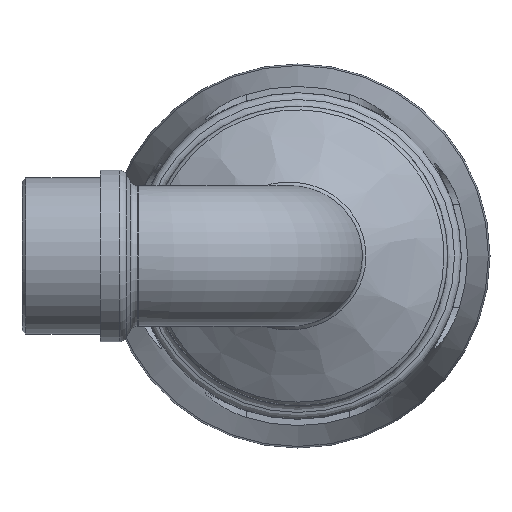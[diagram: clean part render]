
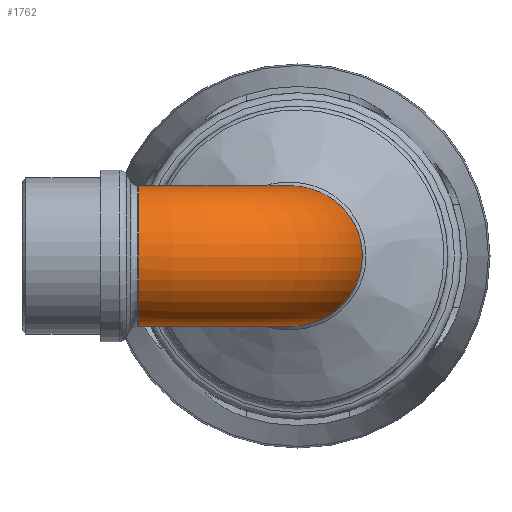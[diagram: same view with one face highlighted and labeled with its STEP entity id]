
A CAD part, left-side view. The second image highlights one B-rep face of the part: STEP entity #1762.
In plain terms, the highlighted toroidal (fillet/blend) face has major radius 42.752 mm and minor radius 18.86 mm.
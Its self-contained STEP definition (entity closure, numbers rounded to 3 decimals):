
#236=B_SPLINE_CURVE_WITH_KNOTS('',3,(#2675,#2676,#2677,#2678,#2679,#2680,
#2681,#2682,#2683,#2684,#2685,#2686,#2687,#2688,#2689,#2690,#2691,#2692),
 .UNSPECIFIED.,.T.,.F.,(4,1,1,1,1,1,1,1,1,1,1,1,1,1,1,4),(-3.142,
-2.693,-2.244,-1.795,-1.346,
-0.748,-0.449,-0.299,-0.15,
0.449,0.898,1.346,1.795,2.244,
2.693,3.142),.UNSPECIFIED.);
#357=FACE_BOUND('',#512,.T.);
#389=FACE_OUTER_BOUND('',#511,.T.);
#511=EDGE_LOOP('',(#1167));
#512=EDGE_LOOP('',(#1168));
#634=CIRCLE('',#1873,18.86);
#731=VERTEX_POINT('',#2580);
#733=VERTEX_POINT('',#2673);
#894=EDGE_CURVE('',#731,#731,#634,.T.);
#896=EDGE_CURVE('',#733,#733,#236,.T.);
#1167=ORIENTED_EDGE('',*,*,#896,.F.);
#1168=ORIENTED_EDGE('',*,*,#894,.T.);
#1632=TOROIDAL_SURFACE('',#1887,42.753,18.86);
#1762=ADVANCED_FACE('',(#389,#357),#1632,.T.);
#1873=AXIS2_PLACEMENT_3D('',#2581,#2091,#2092);
#1887=AXIS2_PLACEMENT_3D('',#2945,#2120,#2121);
#2091=DIRECTION('center_axis',(0.,-1.,0.));
#2092=DIRECTION('ref_axis',(-1.,0.,0.));
#2120=DIRECTION('center_axis',(0.,0.,1.));
#2121=DIRECTION('ref_axis',(1.,0.,0.));
#2580=CARTESIAN_POINT('',(18.86,42.753,0.));
#2581=CARTESIAN_POINT('Origin',(0.,42.753,0.));
#2673=CARTESIAN_POINT('',(28.331,23.703,0.));
#2675=CARTESIAN_POINT('Ctrl Pts',(28.332,23.707,0.));
#2676=CARTESIAN_POINT('Ctrl Pts',(28.332,23.707,2.905));
#2677=CARTESIAN_POINT('Ctrl Pts',(28.27,21.963,8.713));
#2678=CARTESIAN_POINT('Ctrl Pts',(28.221,15.64,15.263));
#2679=CARTESIAN_POINT('Ctrl Pts',(28.328,7.347,18.912));
#2680=CARTESIAN_POINT('Ctrl Pts',(28.517,-2.691,19.127));
#2681=CARTESIAN_POINT('Ctrl Pts',(28.664,-10.828,14.923));
#2682=CARTESIAN_POINT('Ctrl Pts',(28.73,-14.901,9.345));
#2683=CARTESIAN_POINT('Ctrl Pts',(28.754,-16.404,5.754));
#2684=CARTESIAN_POINT('Ctrl Pts',(28.776,-17.802,0.071));
#2685=CARTESIAN_POINT('Ctrl Pts',(28.757,-16.497,-7.98));
#2686=CARTESIAN_POINT('Ctrl Pts',(28.649,-9.953,-15.547));
#2687=CARTESIAN_POINT('Ctrl Pts',(28.497,-1.687,-19.095));
#2688=CARTESIAN_POINT('Ctrl Pts',(28.328,7.346,-18.917));
#2689=CARTESIAN_POINT('Ctrl Pts',(28.221,15.64,-15.26));
#2690=CARTESIAN_POINT('Ctrl Pts',(28.27,21.963,-8.715));
#2691=CARTESIAN_POINT('Ctrl Pts',(28.332,23.707,-2.905));
#2692=CARTESIAN_POINT('Ctrl Pts',(28.332,23.707,0.));
#2945=CARTESIAN_POINT('Origin',(42.753,42.753,0.));
